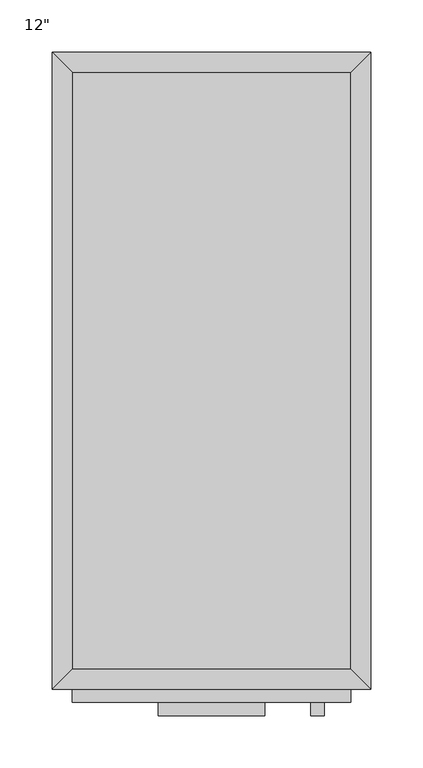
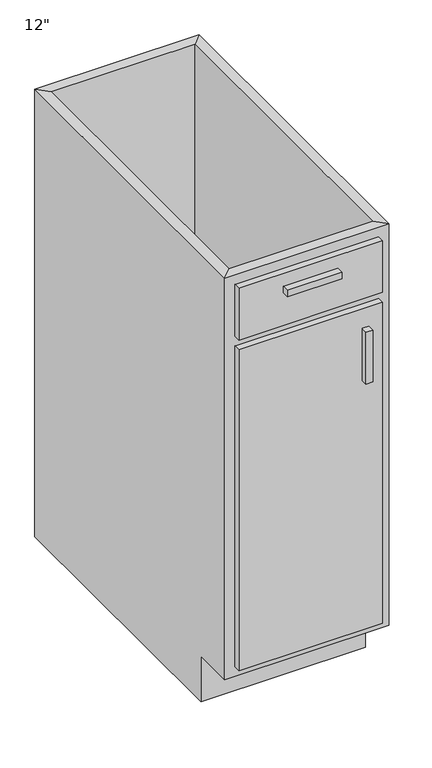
"""IFC4 building model written with IfcOpenShell, lengths in millimetres: furniture geometry."""

from ifc_helpers import new_model, si_unit, frame, origin, place, context, project, spatial, polyline, outline, extrude, faceted_brep, source, transform, mapped, element, save


def furniture_6e8794dd(model_context):
    return source(origin(), model_context, "Body", "SolidModel", [
        faceted_brep([(152.0877049, -590.55, 876.3), (152.0877049, -590.55, 88.9), (-114.6122951, -590.55, 88.9), (-114.6122951, -590.55, 876.3), (-133.6622951, -609.6, 876.3), (171.1377049, -609.6, 876.3), (-133.6622951, -609.6, 88.9), (171.1377049, -609.6, 88.9), (-114.6122951, -533.4, 88.9), (-114.6122951, -19.05, 88.9), (-114.6122951, -19.05, 876.3), (-133.6622951, 0.0, 876.3), (-133.6622951, 0.0, 0.0), (-133.6622951, -533.4, 0.0), (-133.6622951, -533.4, 88.9), (152.0877049, -19.05, 88.9), (152.0877049, -19.05, 876.3), (171.1377049, 0.0, 876.3), (171.1377049, 0.0, 0.0), (152.0877049, -533.4, 88.9), (171.1377049, -533.4, 88.9), (171.1377049, -533.4, 0.0)], [[[0, 1, 2, 3]], [[0, 3, 4, 5]], [[5, 4, 6, 7]], [[2, 1, 7, 6]], [[3, 2, 8, 9, 10]], [[4, 3, 10, 11]], [[6, 4, 11, 12, 13, 14]], [[2, 6, 14, 8]], [[10, 9, 15, 16]], [[11, 10, 16, 17]], [[12, 11, 17, 18]], [[1, 0, 16, 15, 19]], [[0, 5, 17, 16]], [[5, 7, 20, 21, 18, 17]], [[7, 1, 19, 20]], [[8, 19, 15, 9]], [[18, 21, 13, 12]], [[13, 21, 20, 19, 8, 14]]]),
        extrude(outline(polyline([(126.6877049, -635.0), (113.9877049, -635.0), (113.9877049, -622.3), (126.6877049, -622.3), (126.6877049, -635.0)])), frame((0.0, 0.0, 596.9), z_axis=(0.0, 0.0, 1.0), x_axis=(1.0, 0.0, 0.0)), (0.0, 0.0, 1.0), 101.6),
        extrude(outline(polyline([(69.5377049, -635.0), (-32.0622951, -635.0), (-32.0622951, -622.3), (69.5377049, -622.3), (69.5377049, -635.0)])), frame((0.0, 0.0, 819.15), z_axis=(0.0, 0.0, 1.0), x_axis=(1.0, 0.0, 0.0)), (0.0, 0.0, 1.0), 12.7),
        extrude(outline(polyline([(152.0877049, -622.3), (-114.6122951, -622.3), (-114.6122951, -609.6), (152.0877049, -609.6), (152.0877049, -622.3)])), frame((0.0, 0.0, 107.95), z_axis=(0.0, 0.0, 1.0), x_axis=(1.0, 0.0, 0.0)), (0.0, 0.0, 1.0), 628.65),
        extrude(outline(polyline([(152.0877049, -622.3), (-114.6122951, -622.3), (-114.6122951, -609.6), (152.0877049, -609.6), (152.0877049, -622.3)])), frame((0.0, 0.0, 755.65), z_axis=(0.0, 0.0, 1.0), x_axis=(1.0, 0.0, 0.0)), (0.0, 0.0, 1.0), 101.6),
        extrude(outline(polyline([(152.0877049, -19.05), (152.0877049, -590.55), (-114.6122951, -590.55), (-114.6122951, -19.05), (152.0877049, -19.05)])), frame((0.0, 0.0, 88.9), z_axis=(0.0, 0.0, 1.0), x_axis=(1.0, 0.0, 0.0)), (0.0, 0.0, 1.0), 19.05),
    ])


if __name__ == "__main__":
    model = new_model("IFC4")
    model_context = context("Model", 3, world=origin())
    ifc_project = project(units=[si_unit("LENGTHUNIT", "METRE", prefix="MILLI")], contexts=[model_context])
    site = spatial("IfcSite", under=ifc_project)
    building = spatial("IfcBuilding", under=site)
    placement = place(None, origin())
    furniture_shape = furniture_6e8794dd(model_context)
    element("IfcFurniture", 1, ObjectType="Base Cabinet-Single Door & Drawer : 12\"", at=placement, inside=building, context=model_context, shape_type="MappedRepresentation", body=[
        mapped(furniture_shape, transform((0.0, 0.0, 0.0), x_axis=(1.0, 0.0, 0.0), y_axis=(0.0, 1.0, 0.0), z_axis=(0.0, 0.0, 1.0))),
    ])
    save(model, "model.ifc")
